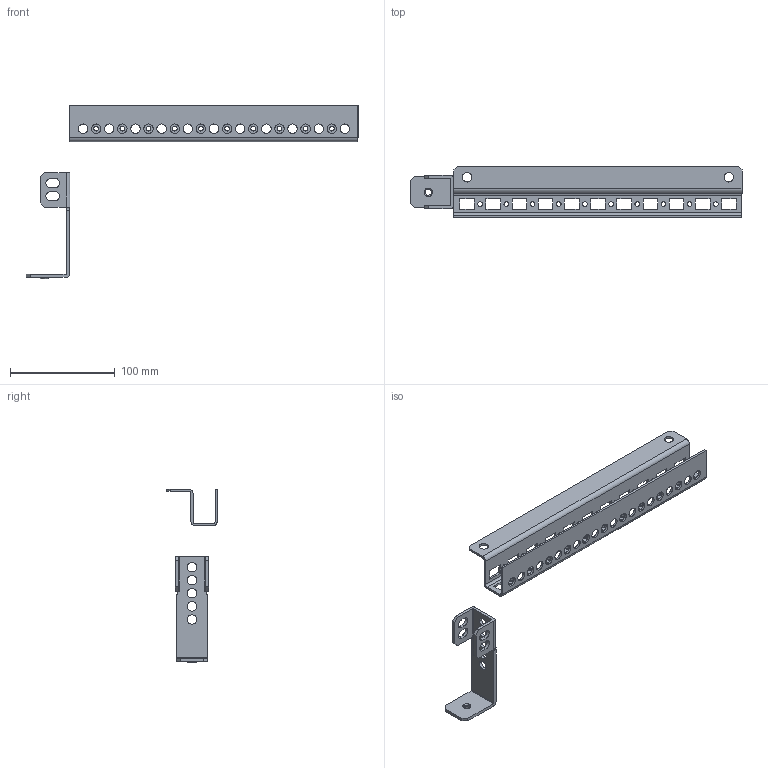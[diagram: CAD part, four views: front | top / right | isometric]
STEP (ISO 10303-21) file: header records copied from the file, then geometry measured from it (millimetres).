
FILE_DESCRIPTION (( 'STEP AP203' ), '1' );
FILE_NAME ('MPGDA01_V1.step', '2015-01-19T08:54:26', ( '' ), ( '' ), 'SwSTEP 2.0', 'SolidWorks 2014', '' );
FILE_SCHEMA (( 'CONFIG_CONTROL_DESIGN' ));
Length unit declared in the file: millimetre
Products named in the file (3): 9808-0111; Suport placa MPG superior; MPGDA01_V1
Assembly tree (2 placements, depth 2):
  MPGDA01_V1
    9808-0111
    Suport placa MPG superior
Bounding box: 317 x 48 x 165.98 mm (x, y, z)
Volume: 65839.9 mm3; surface area: 68622.4 mm2
Topology: 3 solids, 3 shells, 268 faces, 781 edges, 518 vertices
Faces by surface type: plane 135, cylinder 129, bspline 4
Entity records: 9682 total; most frequent: CARTESIAN_POINT 1742, DIRECTION 1581, ORIENTED_EDGE 1562, EDGE_CURVE 781, AXIS2_PLACEMENT_3D 533, VERTEX_POINT 518, LINE 515, VECTOR 515
